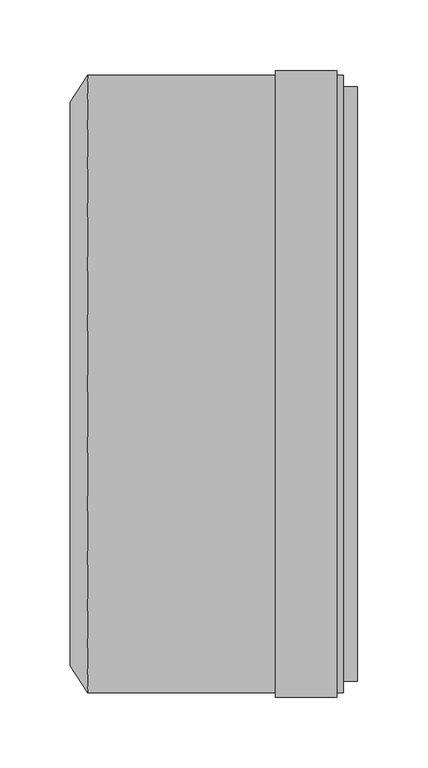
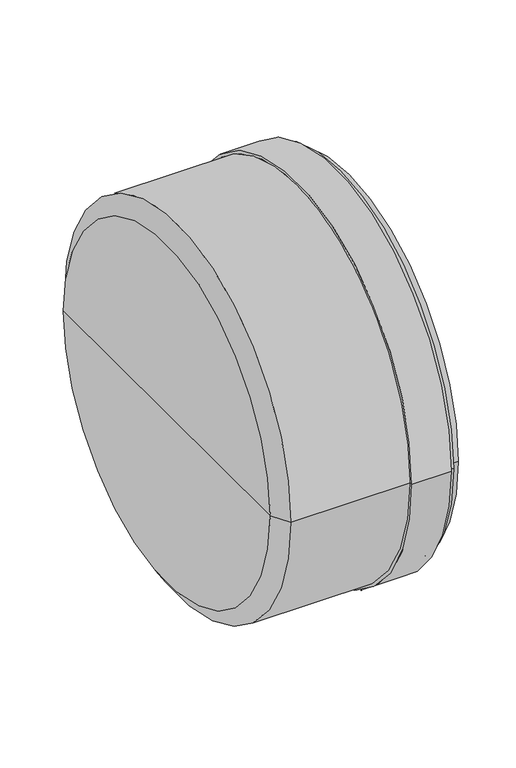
"""IFC4 building model written with IfcOpenShell, lengths in millimetres: pipe fitting geometry, pf_KGM_zatka : pf_KGM_zatka."""

from ifc_helpers import new_model, si_unit, frame, origin, place, context, project, spatial, polyline, circle_curve, source, transform, mapped, element, save
from ifc_brep_helpers import plane_surface, cylinder_surface, revolved_surface, advanced_brep


def pipe_fitting_a2362ea0(model_context):
    return source(origin(), model_context, "Body", "AdvancedBrep", [
        advanced_brep(
        [(-194.0, -200.0, 0.0), (-194.0, 200.0, 0.0), (-181.8, 219.1, 0.0), (-181.8, -219.1, 0.0), (-194.0, 0.0, 0.0), (0.0, -219.1, 0.0), (0.0, 219.1, 0.0), (0.0, 200.0, 0.0), (0.0, -200.0, 0.0), (-4.8, -219.1, 0.0), (-4.8, 219.1, 0.0), (-4.8, -222.5, 0.0), (-4.8, 222.5, 0.0), (-48.4, -222.5, 0.0), (-48.4, 222.5, 0.0), (-48.4, -219.1, 0.0), (-48.4, 219.1, 0.0), (-181.8, -200.0, 0.0), (-181.8, 200.0, 0.0), (-181.8, 0.0, 0.0)],
        [
            (0, 1, circle_curve(frame((-194.0, 0.0, 0.0), z_axis=(1.0, 0.0, 0.0), x_axis=(0.0, 1.0, 0.0)), 200.0)),
            (1, 2),
            (2, 3, circle_curve(frame((-181.8, 0.0, 0.0), z_axis=(-1.0, 0.0, 0.0), x_axis=(0.0, 1.0, 0.0)), 219.1)),
            (3, 0),
            (1, 0, circle_curve(frame((-194.0, 0.0, 0.0), z_axis=(1.0, 0.0, 0.0), x_axis=(0.0, 1.0, 0.0)), 200.0)),
            (3, 2, circle_curve(frame((-181.8, 0.0, 0.0), z_axis=(-1.0, 0.0, 0.0), x_axis=(0.0, 1.0, 0.0)), 219.1)),
            (4, 1),
            (0, 4),
            (5, 6, circle_curve(frame((0.0, 0.0, 0.0), z_axis=(1.0, 0.0, 0.0), x_axis=(0.0, 1.0, 0.0)), 219.1)),
            (6, 7),
            (7, 8, circle_curve(frame((0.0, 0.0, 0.0), z_axis=(-1.0, 0.0, 0.0), x_axis=(0.0, 1.0, 0.0)), 200.0)),
            (8, 5),
            (6, 5, circle_curve(frame((0.0, 0.0, 0.0), z_axis=(1.0, 0.0, 0.0), x_axis=(0.0, 1.0, 0.0)), 219.1)),
            (8, 7, circle_curve(frame((0.0, 0.0, 0.0), z_axis=(-1.0, 0.0, 0.0), x_axis=(0.0, 1.0, 0.0)), 200.0)),
            (9, 10, circle_curve(frame((-4.8, 0.0, 0.0), z_axis=(1.0, 0.0, 0.0), x_axis=(0.0, 1.0, 0.0)), 219.1)),
            (10, 6),
            (5, 9),
            (10, 9, circle_curve(frame((-4.8, 0.0, 0.0), z_axis=(1.0, 0.0, 0.0), x_axis=(0.0, 1.0, 0.0)), 219.1)),
            (11, 12, circle_curve(frame((-4.8, 0.0, 0.0), z_axis=(1.0, 0.0, 0.0), x_axis=(0.0, 1.0, 0.0)), 222.5)),
            (12, 10),
            (9, 11),
            (12, 11, circle_curve(frame((-4.8, 0.0, 0.0), z_axis=(1.0, 0.0, 0.0), x_axis=(0.0, 1.0, 0.0)), 222.5)),
            (13, 14, circle_curve(frame((-48.4, 0.0, 0.0), z_axis=(1.0, 0.0, 0.0), x_axis=(0.0, 1.0, 0.0)), 222.5)),
            (14, 12),
            (11, 13),
            (14, 13, circle_curve(frame((-48.4, 0.0, 0.0), z_axis=(1.0, 0.0, 0.0), x_axis=(0.0, 1.0, 0.0)), 222.5)),
            (15, 16, circle_curve(frame((-48.4, 0.0, 0.0), z_axis=(1.0, 0.0, 0.0), x_axis=(0.0, 1.0, 0.0)), 219.1)),
            (16, 14),
            (13, 15),
            (16, 15, circle_curve(frame((-48.4, 0.0, 0.0), z_axis=(1.0, 0.0, 0.0), x_axis=(0.0, 1.0, 0.0)), 219.1)),
            (2, 16),
            (15, 3),
            (17, 18, circle_curve(frame((-181.8, 0.0, 0.0), z_axis=(1.0, 0.0, 0.0), x_axis=(0.0, 1.0, 0.0)), 200.0)),
            (18, 19),
            (19, 17),
            (18, 17, circle_curve(frame((-181.8, 0.0, 0.0), z_axis=(1.0, 0.0, 0.0), x_axis=(0.0, 1.0, 0.0)), 200.0)),
            (7, 18),
            (17, 8),
        ],
        [
            revolved_surface(polyline([(-181.8, 219.1, 0.0), (-194.0, 200.0, 0.0)]), (-194.0, 0.0, 0.0), (-1.0, 0.0, 0.0)),
            plane_surface(frame((-194.0, 0.0, 0.0), z_axis=(-1.0, 0.0, 0.0), x_axis=(0.0, 1.0, 0.0))),
            plane_surface(frame((0.0, 0.0, 0.0), z_axis=(1.0, 0.0, 0.0), x_axis=(0.0, 1.0, 0.0))),
            cylinder_surface(frame((-194.0, 0.0, 0.0), z_axis=(-1.0, 0.0, 0.0), x_axis=(0.0, 1.0, 0.0)), 219.1),
            plane_surface(frame((-4.8, 0.0, 0.0), z_axis=(1.0, 0.0, 0.0), x_axis=(0.0, 1.0, 0.0))),
            cylinder_surface(frame((-194.0, 0.0, 0.0), z_axis=(-1.0, 0.0, 0.0), x_axis=(0.0, 1.0, 0.0)), 222.5),
            plane_surface(frame((-48.4, 0.0, 0.0), z_axis=(-1.0, 0.0, 0.0), x_axis=(0.0, 1.0, 0.0))),
            plane_surface(frame((-181.8, 0.0, 0.0), z_axis=(1.0, 0.0, 0.0), x_axis=(0.0, 1.0, 0.0))),
            revolved_surface(polyline([(-181.8, 200.0, 0.0), (0.0, 200.0, 0.0)]), (-194.0, 0.0, 0.0), (-1.0, 0.0, 0.0)),
        ],
        [
            (0, [[1, 2, 3, 4]]),
            (0, [[5, -4, 6, -2]]),
            (1, [[7, -1, 8]]),
            (1, [[-8, -5, -7]]),
            (2, [[9, 10, 11, 12]]),
            (2, [[13, -12, 14, -10]]),
            (3, [[15, 16, -9, 17]]),
            (3, [[18, -17, -13, -16]]),
            (4, [[19, 20, -15, 21]]),
            (4, [[22, -21, -18, -20]]),
            (5, [[23, 24, -19, 25]]),
            (5, [[26, -25, -22, -24]]),
            (6, [[27, 28, -23, 29]]),
            (6, [[30, -29, -26, -28]]),
            (3, [[-3, 31, -27, 32]]),
            (3, [[-6, -32, -30, -31]]),
            (7, [[33, 34, 35]]),
            (7, [[36, -35, -34]]),
            (8, [[-11, 37, -33, 38]]),
            (8, [[-14, -38, -36, -37]]),
        ],
    ),
        advanced_brep(
        [(-99.0, 0.0, 0.0), (-99.0, 200.0, 0.0), (-99.0, -200.0, 0.0), (9.8, -211.14, 0.0), (9.8, 211.14, 0.0), (9.8, 0.0, 0.0), (0.0, -211.14, 0.0), (0.0, 211.14, 0.0), (0.0, -201.34, 0.0), (0.0, 201.34, 0.0), (-95.0, -201.34, 0.0), (-95.0, 201.34, 0.0)],
        [
            (0, 1),
            (1, 2, circle_curve(frame((-99.0, 0.0, 0.0), z_axis=(-1.0, 0.0, 0.0), x_axis=(0.0, 1.0, 0.0)), 200.0)),
            (2, 0),
            (2, 1, circle_curve(frame((-99.0, 0.0, 0.0), z_axis=(-1.0, 0.0, 0.0), x_axis=(0.0, 1.0, 0.0)), 200.0)),
            (3, 4, circle_curve(frame((9.8, 0.0, 0.0), z_axis=(1.0, 0.0, 0.0), x_axis=(0.0, 1.0, 0.0)), 211.14)),
            (4, 5),
            (5, 3),
            (4, 3, circle_curve(frame((9.8, 0.0, 0.0), z_axis=(1.0, 0.0, 0.0), x_axis=(0.0, 1.0, 0.0)), 211.14)),
            (6, 7, circle_curve(frame((0.0, 0.0, 0.0), z_axis=(1.0, 0.0, 0.0), x_axis=(0.0, 1.0, 0.0)), 211.14)),
            (7, 4),
            (3, 6),
            (7, 6, circle_curve(frame((0.0, 0.0, 0.0), z_axis=(1.0, 0.0, 0.0), x_axis=(0.0, 1.0, 0.0)), 211.14)),
            (8, 9, circle_curve(frame((0.0, 0.0, 0.0), z_axis=(1.0, 0.0, 0.0), x_axis=(0.0, 1.0, 0.0)), 201.34)),
            (9, 7),
            (6, 8),
            (9, 8, circle_curve(frame((0.0, 0.0, 0.0), z_axis=(1.0, 0.0, 0.0), x_axis=(0.0, 1.0, 0.0)), 201.34)),
            (10, 11, circle_curve(frame((-95.0, 0.0, 0.0), z_axis=(1.0, 0.0, 0.0), x_axis=(0.0, 1.0, 0.0)), 201.34)),
            (11, 9),
            (8, 10),
            (11, 10, circle_curve(frame((-95.0, 0.0, 0.0), z_axis=(1.0, 0.0, 0.0), x_axis=(0.0, 1.0, 0.0)), 201.34)),
            (1, 11),
            (10, 2),
        ],
        [
            plane_surface(frame((-99.0, 0.0, 0.0), z_axis=(-1.0, 0.0, 0.0), x_axis=(0.0, 1.0, 0.0))),
            plane_surface(frame((9.8, 0.0, 0.0), z_axis=(1.0, 0.0, 0.0), x_axis=(0.0, 1.0, 0.0))),
            cylinder_surface(frame((-98.0241529, 0.0, 0.0), z_axis=(-1.0, 0.0, 0.0), x_axis=(0.0, 1.0, 0.0)), 211.14),
            plane_surface(frame((0.0, 0.0, 0.0), z_axis=(-1.0, 0.0, 0.0), x_axis=(0.0, 1.0, 0.0))),
            cylinder_surface(frame((-98.0241529, 0.0, 0.0), z_axis=(-1.0, 0.0, 0.0), x_axis=(0.0, 1.0, 0.0)), 201.34),
            revolved_surface(polyline([(-95.0, 201.34, 0.0), (-99.0, 200.0, 0.0)]), (-98.0241529, 0.0, 0.0), (-1.0, 0.0, 0.0)),
        ],
        [
            (0, [[1, 2, 3]]),
            (0, [[-3, 4, -1]]),
            (1, [[5, 6, 7]]),
            (1, [[8, -7, -6]]),
            (2, [[9, 10, -5, 11]]),
            (2, [[12, -11, -8, -10]]),
            (3, [[13, 14, -9, 15]]),
            (3, [[16, -15, -12, -14]]),
            (4, [[17, 18, -13, 19]]),
            (4, [[20, -19, -16, -18]]),
            (5, [[-2, 21, -17, 22]]),
            (5, [[-4, -22, -20, -21]]),
        ],
    ),
    ])


if __name__ == "__main__":
    model = new_model("IFC4")
    model_context = context("Model", 3, world=origin())
    ifc_project = project(units=[si_unit("LENGTHUNIT", "METRE", prefix="MILLI")], contexts=[model_context])
    site = spatial("IfcSite", under=ifc_project)
    building = spatial("IfcBuilding", under=site)
    placement = place(None, origin())
    pipe_fitting_shape = pipe_fitting_a2362ea0(model_context)
    element("IfcPipeFitting", 1, ObjectType="pf_KGM_zatka : pf_KGM_zatka", at=placement, inside=building, context=model_context, shape_type="MappedRepresentation", body=[
        mapped(pipe_fitting_shape, transform((0.0, 0.0, 0.0), x_axis=(1.0, 0.0, 0.0), y_axis=(0.0, 1.0, 0.0), z_axis=(0.0, 0.0, 1.0))),
    ])
    save(model, "model.ifc")
